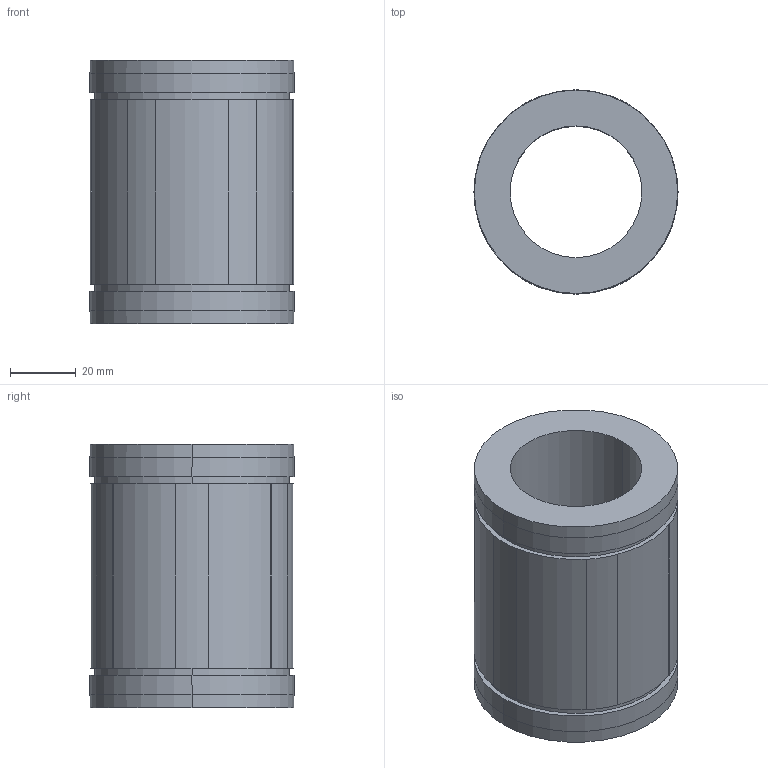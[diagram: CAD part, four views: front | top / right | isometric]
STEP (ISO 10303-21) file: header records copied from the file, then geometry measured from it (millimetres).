
FILE_DESCRIPTION((''),'2;1');
FILE_NAME('C:\Documents and Settings\ｿﾀﾀ蠑ｷ1\ｹﾙﾅﾁ ﾈｭｸ饅\ｺﾎﾇｰﾆﾄﾀﾏ\ﾁｦﾇｰ\LMES__UU\LMES40UU.stp','2005-06-15T14:05:55',('ｿﾀﾀ蠑ｷ1'),(''),'Autodesk Inventor 9','Autodesk Inventor 9','');
FILE_SCHEMA(('AUTOMOTIVE_DESIGN { 1 0 10303 214 1 1 1 1 }'));
Length unit declared in the file: millimetre
Products named in the file (1): LMES__
Bounding box: 62 x 62 x 80 mm (x, y, z)
Volume: 138907.5 mm3; surface area: 30224.1 mm2
Topology: 1 solids, 1 shells, 44 faces, 110 edges, 72 vertices
Faces by surface type: cylinder 22, plane 18, cone 4
Entity records: 1357 total; most frequent: DIRECTION 248, CARTESIAN_POINT 227, ORIENTED_EDGE 220, EDGE_CURVE 110, AXIS2_PLACEMENT_3D 93, VERTEX_POINT 72, VECTOR 62, LINE 62
